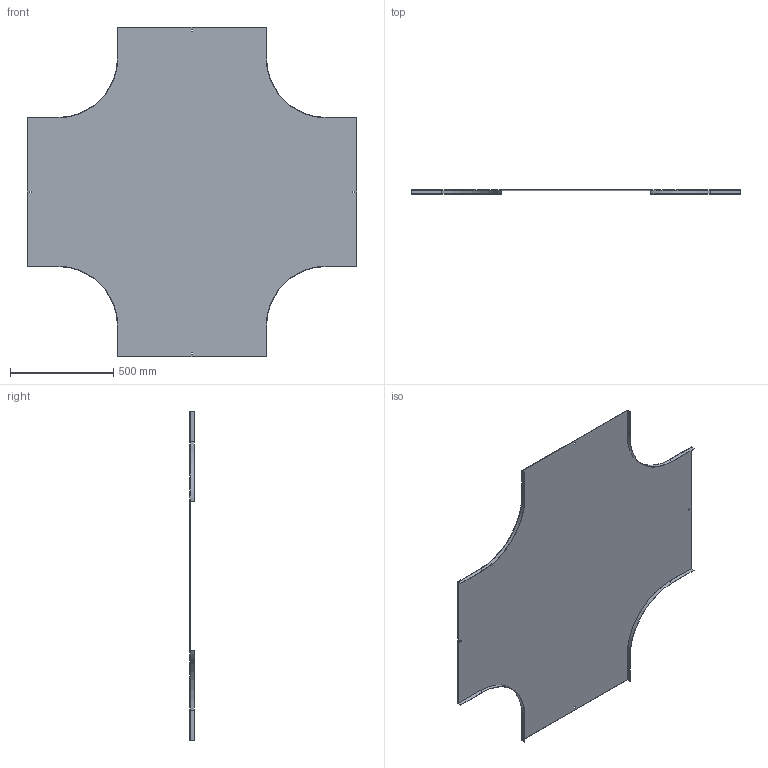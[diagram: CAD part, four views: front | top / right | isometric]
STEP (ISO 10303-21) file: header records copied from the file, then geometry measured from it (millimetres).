
FILE_DESCRIPTION (( 'STEP AP214' ), '1' );
FILE_NAME ('17N3P700.step', '2025-02-21T13:57:14', ( '' ), ( '' ), 'SwSTEP 2.0', 'SolidWorks 2023', '' );
FILE_SCHEMA (( 'AUTOMOTIVE_DESIGN' ));
Length unit declared in the file: millimetre
Products named in the file (1): 17N3P700
Bounding box: 1600 x 20 x 1600 mm (x, y, z)
Volume: 2876859.4 mm3; surface area: 3845077.6 mm2
Topology: 1 solids, 1 shells, 50 faces, 144 edges, 96 vertices
Faces by surface type: plane 42, cylinder 8
Entity records: 1663 total; most frequent: CARTESIAN_POINT 291, ORIENTED_EDGE 288, DIRECTION 262, EDGE_CURVE 144, LINE 128, VECTOR 128, VERTEX_POINT 96, AXIS2_PLACEMENT_3D 67
